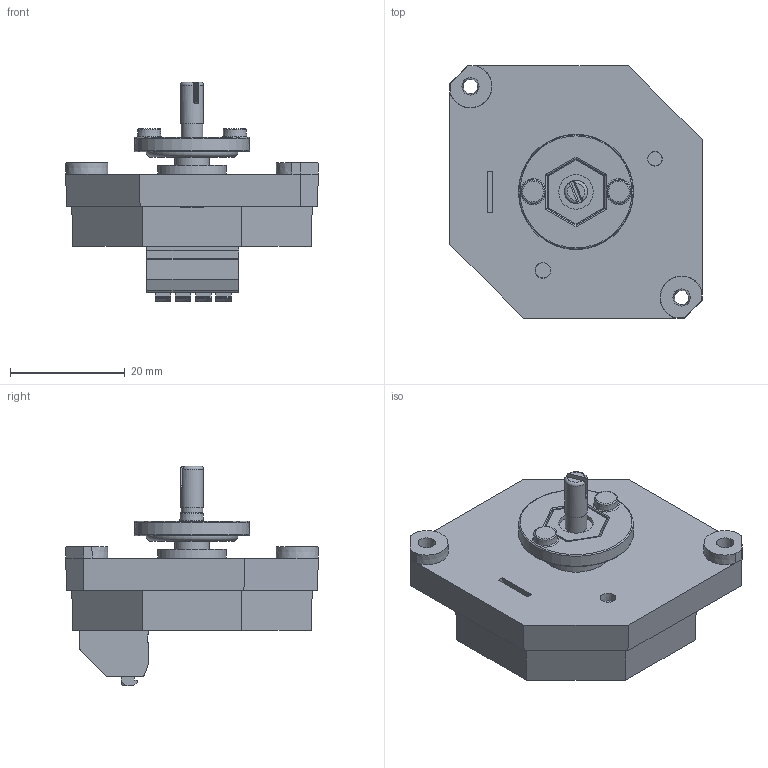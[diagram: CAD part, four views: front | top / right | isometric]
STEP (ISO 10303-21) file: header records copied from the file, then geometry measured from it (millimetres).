
FILE_DESCRIPTION(/* description */ ('Unknown'),/* implementation_level */ '2;1');
FILE_NAME(/* name */ 'DALI-ROT-CH',/* time_stamp */ '2023-07-15T22:09:12+02:00',/* author */ ('Unknown'),/* organization */ ('Unknown'),/* preprocessor_version */ 'ST-DEVELOPER v16.7',/* originating_system */ 'DEX',/* authorisation */ $);
FILE_SCHEMA (('AUTOMOTIVE_DESIGN {1 0 10303 214 3 1 1}'));
Length unit declared in the file: millimetre
Products named in the file (3): AsmRotaryPSandHousing; asmROTCH; Mutter
Assembly tree (2 placements, depth 2):
  AsmRotaryPSandHousing
    asmROTCH
    Mutter
Bounding box: 44 x 44 x 38.24 mm (x, y, z)
Volume: 21972.5 mm3; surface area: 10117.6 mm2
Topology: 2 solids, 2 shells, 289 faces, 734 edges, 473 vertices
Faces by surface type: plane 203, cylinder 50, cone 25, torus 9, bspline 2
Full cylindrical faces by diameter (mm): 1.5 x2, 3 x3, 3.8 x1, 4 x1, 6 x3, 7.241 x1
Entity records: 10451 total; most frequent: CARTESIAN_POINT 1583, ORIENTED_EDGE 1370, DIRECTION 1368, EDGE_CURVE 685, LINE 508, VECTOR 508, VERTEX_POINT 453, AXIS2_PLACEMENT_3D 430
